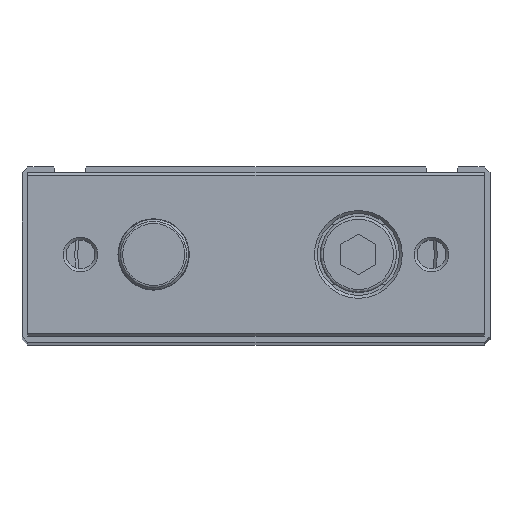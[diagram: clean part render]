
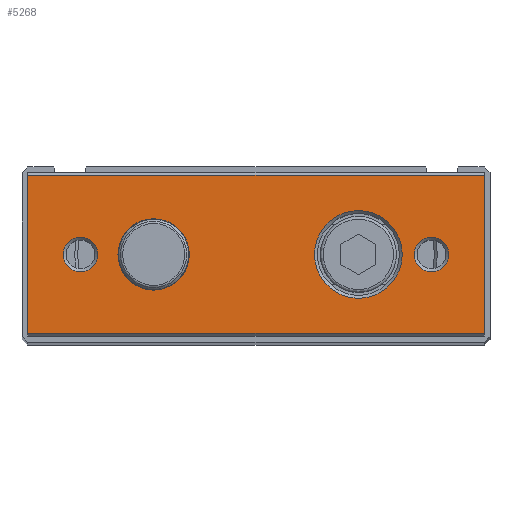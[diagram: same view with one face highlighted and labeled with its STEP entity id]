
A CAD part, top view. The second image highlights one B-rep face of the part: STEP entity #5268.
In plain terms, the highlighted planar face has unit normal (0, 0, 1).
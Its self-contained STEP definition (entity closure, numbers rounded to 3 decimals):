
#3994=CARTESIAN_POINT('',(-39.0,-13.5,286.0));
#3995=VERTEX_POINT('',#3994);
#4002=CARTESIAN_POINT('',(-39.0,13.5,286.0));
#4003=VERTEX_POINT('',#4002);
#4004=CARTESIAN_POINT('',(-39.0,13.5,286.0));
#4005=DIRECTION('',(0.0,-1.0,0.0));
#4006=VECTOR('',#4005,27.);
#4007=LINE('',#4004,#4006);
#4008=EDGE_CURVE('',#4003,#3995,#4007,.T.);
#4122=CARTESIAN_POINT('',(39.0,-13.5,286.0));
#4123=VERTEX_POINT('',#4122);
#4130=CARTESIAN_POINT('',(39.0,-13.5,286.0));
#4131=DIRECTION('',(-1.0,0.0,0.0));
#4132=VECTOR('',#4131,78.0);
#4133=LINE('',#4130,#4132);
#4134=EDGE_CURVE('',#4123,#3995,#4133,.T.);
#4201=CARTESIAN_POINT('',(39.0,13.5,286.0));
#4202=VERTEX_POINT('',#4201);
#4209=CARTESIAN_POINT('',(39.0,-13.5,286.0));
#4210=DIRECTION('',(0.0,1.0,0.0));
#4211=VECTOR('',#4210,27.);
#4212=LINE('',#4209,#4211);
#4213=EDGE_CURVE('',#4123,#4202,#4212,.T.);
#5204=CARTESIAN_POINT('',(-27.042,0.,286.0));
#5205=VERTEX_POINT('',#5204);
#5206=CARTESIAN_POINT('',(-30.0,0.,286.0));
#5207=DIRECTION('',(0.0,0.0,1.0));
#5208=DIRECTION('',(-1.0,0.0,0.0));
#5209=AXIS2_PLACEMENT_3D('',#5206,#5207,#5208);
#5210=CIRCLE('',#5209,2.958);
#5211=EDGE_CURVE('',#5205,#5205,#5210,.T.);
#5216=CARTESIAN_POINT('',(0.0,-14.,286.0));
#5217=DIRECTION('',(0.0,0.0,1.0));
#5218=DIRECTION('',(1.0,0.0,0.0));
#5219=AXIS2_PLACEMENT_3D('',#5216,#5217,#5218);
#5220=PLANE('',#5219);
#5221=ORIENTED_EDGE('',*,*,#4134,.F.);
#5222=ORIENTED_EDGE('',*,*,#4213,.T.);
#5223=CARTESIAN_POINT('',(-39.0,13.5,286.0));
#5224=DIRECTION('',(1.0,0.0,0.0));
#5225=VECTOR('',#5224,78.0);
#5226=LINE('',#5223,#5225);
#5227=EDGE_CURVE('',#4003,#4202,#5226,.T.);
#5228=ORIENTED_EDGE('',*,*,#5227,.F.);
#5229=ORIENTED_EDGE('',*,*,#4008,.T.);
#5230=EDGE_LOOP('',(#5221,#5222,#5228,#5229));
#5231=FACE_OUTER_BOUND('',#5230,.T.);
#5232=CARTESIAN_POINT('',(32.959,0.,286.0));
#5233=VERTEX_POINT('',#5232);
#5234=CARTESIAN_POINT('',(30.0,0.,286.0));
#5235=DIRECTION('',(0.0,0.0,1.0));
#5236=DIRECTION('',(-1.0,0.0,0.0));
#5237=AXIS2_PLACEMENT_3D('',#5234,#5235,#5236);
#5238=CIRCLE('',#5237,2.958);
#5239=EDGE_CURVE('',#5233,#5233,#5238,.T.);
#5240=ORIENTED_EDGE('',*,*,#5239,.F.);
#5241=EDGE_LOOP('',(#5240));
#5242=FACE_BOUND('',#5241,.T.);
#5243=CARTESIAN_POINT('',(-11.4,0.,286.0));
#5244=VERTEX_POINT('',#5243);
#5245=CARTESIAN_POINT('',(-17.5,0.,286.0));
#5246=DIRECTION('',(0.0,0.0,-1.0));
#5247=DIRECTION('',(-1.0,0.0,0.0));
#5248=AXIS2_PLACEMENT_3D('',#5245,#5246,#5247);
#5249=CIRCLE('',#5248,6.1);
#5250=EDGE_CURVE('',#5244,#5244,#5249,.T.);
#5251=ORIENTED_EDGE('',*,*,#5250,.T.);
#5252=EDGE_LOOP('',(#5251));
#5253=FACE_BOUND('',#5252,.T.);
#5254=CARTESIAN_POINT('',(25.0,0.,286.0));
#5255=VERTEX_POINT('',#5254);
#5256=CARTESIAN_POINT('',(17.5,0.,286.0));
#5257=DIRECTION('',(0.0,0.0,1.0));
#5258=DIRECTION('',(-1.0,0.0,0.0));
#5259=AXIS2_PLACEMENT_3D('',#5256,#5257,#5258);
#5260=CIRCLE('',#5259,7.5);
#5261=EDGE_CURVE('',#5255,#5255,#5260,.T.);
#5262=ORIENTED_EDGE('',*,*,#5261,.F.);
#5263=EDGE_LOOP('',(#5262));
#5264=FACE_BOUND('',#5263,.T.);
#5265=ORIENTED_EDGE('',*,*,#5211,.F.);
#5266=EDGE_LOOP('',(#5265));
#5267=FACE_BOUND('',#5266,.T.);
#5268=ADVANCED_FACE('',(#5231,#5242,#5253,#5264,#5267),#5220,.T.);
